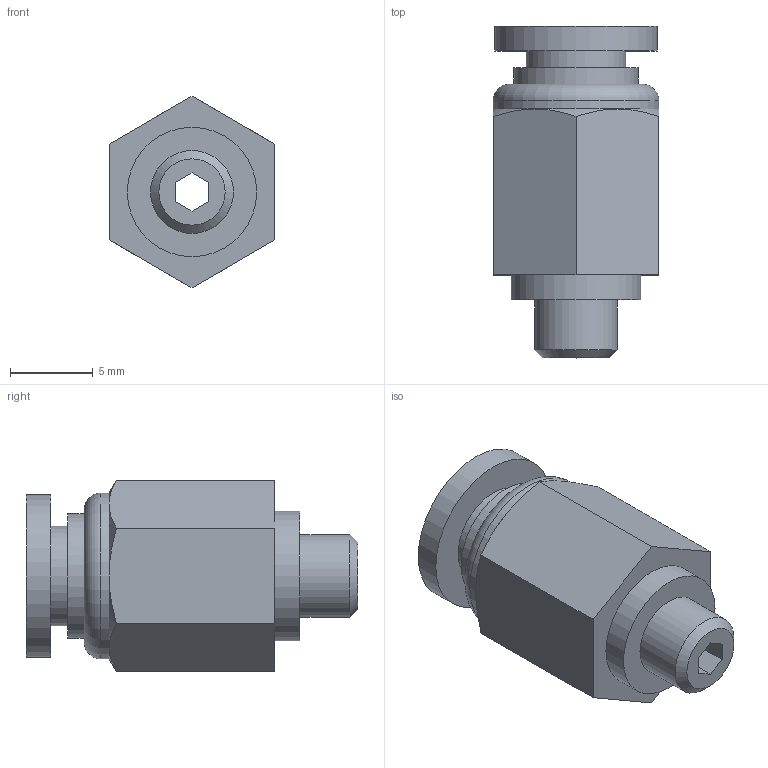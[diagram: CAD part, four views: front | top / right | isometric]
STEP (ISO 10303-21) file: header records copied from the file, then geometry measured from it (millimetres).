
FILE_DESCRIPTION((''),'2;1');
FILE_NAME('S:\UTecnico\ArchivioUT\Speciali Clienti\Speciali KONFIT\Plastica\RP\RP 51\RP51M504.stp','2012-05-21T16:04:06',('UT5'),(''),'Autodesk Inventor 2012','Autodesk Inventor 2012','');
FILE_SCHEMA(('AUTOMOTIVE_DESIGN { 1 0 10303 214 1 1 1 1 }'));
Length unit declared in the file: millimetre
Products named in the file (1): RP51M504
Bounding box: 10 x 20 x 11.55 mm (x, y, z)
Volume: 1099.2 mm3; surface area: 1031.9 mm2
Topology: 1 solids, 1 shells, 35 faces, 73 edges, 46 vertices
Faces by surface type: plane 20, cylinder 7, cone 7, torus 1
Full cylindrical faces by diameter (mm): 4 x1, 5 x1, 6 x1, 7.5 x1, 7.8 x1, 9.8 x1, 10 x1
Entity records: 900 total; most frequent: CARTESIAN_POINT 168, DIRECTION 144, ORIENTED_EDGE 126, EDGE_CURVE 63, AXIS2_PLACEMENT_3D 57, EDGE_LOOP 52, VERTEX_POINT 45, FACE_OUTER_BOUND 35
